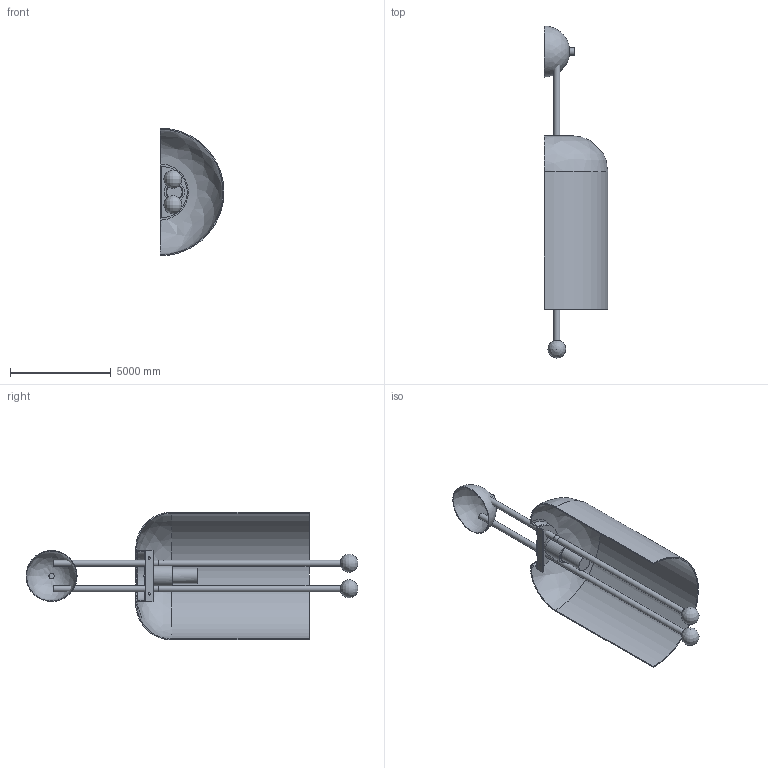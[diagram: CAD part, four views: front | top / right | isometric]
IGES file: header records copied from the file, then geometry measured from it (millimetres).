
Global section: file name: Lantern Glass Sconce; native system: AutoCAD 2022 - 简体中文 (Simplified Chinese),62HAuto; preprocessor: desk Translation Framework DWG producer (atf_dwg_producer); organization: unknown; date: 20260313.144758; units: inch
Bounding box: 3170.49 x 16510 x 6350 mm (x, y, z)
Volume: 8085804872 mm3; surface area: 286600653.8 mm2
Topology: 17 solids, 17 shells, 153 faces, 360 edges, 255 vertices
Faces by surface type: bspline 153
